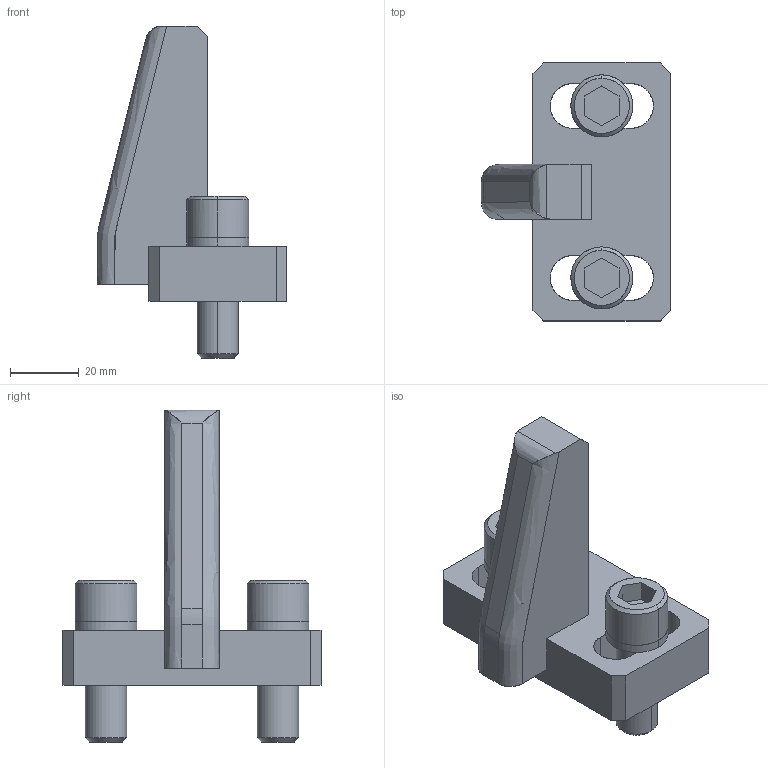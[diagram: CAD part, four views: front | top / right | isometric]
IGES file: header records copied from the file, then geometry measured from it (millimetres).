
Global section: file name: E:\UnigraphicsGraphicData\MISUMI_PRESS-PARTS\IGES\3d_nggc-80-20-15_01503_r00.igs; native system: NX V5.0; preprocessor: UGS NX IGES V5.0; author: MISUMI; date: 20110105.162041; units: millimetre
Bounding box: 55 x 75 x 96.5 mm (x, y, z)
Surface area: 24325.9 mm2 (no closed solid volume)
Topology: 0 solids, 0 shells, 103 faces, 658 edges, 658 vertices
Faces by surface type: bspline 103
